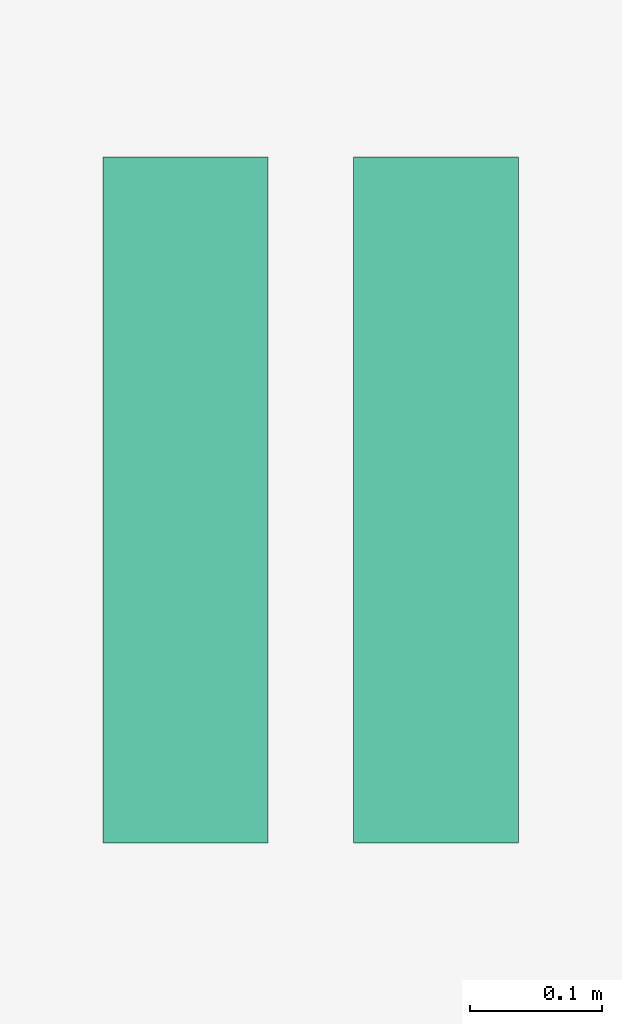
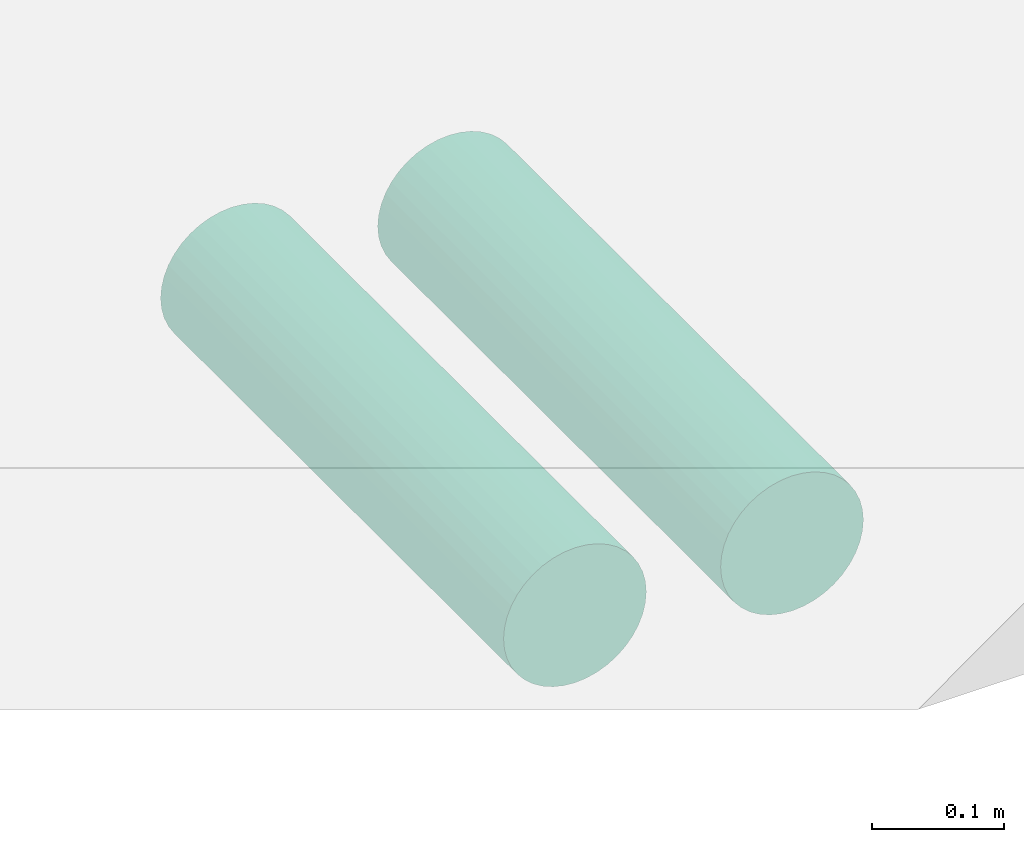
# One storey, part 3 of 3: 2 duct segments.
"""IFC4 building model written with IfcOpenShell, lengths in millimetres."""

from ifc_helpers import new_model, entity, si_unit, converted_unit, derived_unit, direction, frame, origin, place, context, subcontext, project, spatial, indexed_curve, outline, extrude, type_object, element, save


model = new_model("IFC4")

# Units and contexts
model_context = context("Model", 3, precision=0.01, world=origin(), true_north=direction((6.12303176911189e-17, 1.0)))
body_context = subcontext(model_context, "Body", "Model", "MODEL_VIEW")
ifc_project = project(units=[si_unit("LENGTHUNIT", "METRE", prefix="MILLI"), si_unit("AREAUNIT", "SQUARE_METRE"), si_unit("VOLUMEUNIT", "CUBIC_METRE"), converted_unit("PLANEANGLEUNIT", "DEGREE", entity("IfcRatioMeasure", 0.0174532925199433), si_unit("PLANEANGLEUNIT", "RADIAN"), dimensions=[0, 0, 0, 0, 0, 0, 0]), si_unit("MASSUNIT", "GRAM", prefix="KILO"), derived_unit("MASSDENSITYUNIT", [(si_unit("MASSUNIT", "GRAM", prefix="KILO"), 1), (si_unit("LENGTHUNIT", "METRE"), -3)]), si_unit("TIMEUNIT", "SECOND"), si_unit("FREQUENCYUNIT", "HERTZ"), si_unit("THERMODYNAMICTEMPERATUREUNIT", "DEGREE_CELSIUS"), derived_unit("THERMALTRANSMITTANCEUNIT", [(si_unit("MASSUNIT", "GRAM", prefix="KILO"), 1), (si_unit("THERMODYNAMICTEMPERATUREUNIT", "KELVIN"), -1), (si_unit("TIMEUNIT", "SECOND"), -3)]), derived_unit("VOLUMETRICFLOWRATEUNIT", [(si_unit("LENGTHUNIT", "METRE"), 3), (si_unit("TIMEUNIT", "SECOND"), -1)]), si_unit("ELECTRICCURRENTUNIT", "AMPERE"), si_unit("ELECTRICVOLTAGEUNIT", "VOLT"), si_unit("POWERUNIT", "WATT"), si_unit("FORCEUNIT", "NEWTON", prefix="KILO"), si_unit("ILLUMINANCEUNIT", "LUX"), si_unit("LUMINOUSFLUXUNIT", "LUMEN"), si_unit("LUMINOUSINTENSITYUNIT", "CANDELA"), derived_unit("USERDEFINED", [(si_unit("MASSUNIT", "GRAM", prefix="KILO"), -1), (si_unit("LENGTHUNIT", "METRE"), -2), (si_unit("TIMEUNIT", "SECOND"), 3), (si_unit("LUMINOUSFLUXUNIT", "LUMEN"), 1)]), derived_unit("LINEARVELOCITYUNIT", [(si_unit("LENGTHUNIT", "METRE"), 1), (si_unit("TIMEUNIT", "SECOND"), -1)]), si_unit("PRESSUREUNIT", "PASCAL"), derived_unit("USERDEFINED", [(si_unit("LENGTHUNIT", "METRE"), -2), (si_unit("MASSUNIT", "GRAM", prefix="KILO"), 1), (si_unit("TIMEUNIT", "SECOND"), -2)])], contexts=[model_context])

# Site, building, storey
site_placement = place(None, origin())
site = spatial("IfcSite", under=ifc_project, at=site_placement, Name="Default", CompositionType="ELEMENT")
building_placement = place(site_placement, origin())
building = spatial("IfcBuilding", under=site, at=building_placement, CompositionType="ELEMENT")
storey_placement = place(building_placement, frame((0.0, 0.0, 2313.90197154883)))
storey = spatial("IfcBuildingStorey", under=building, at=storey_placement, Name="Level 1y", CompositionType="ELEMENT", Elevation=2313.90197154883)

# Duct segments
duct_segment_type = type_object("IfcDuctSegmentType", Name="Round Duct:Taps", PredefinedType="NOTDEFINED")
duct_segment_1_placement = place(storey_placement, origin())
element("IfcDuctSegment", 1, at=duct_segment_1_placement, inside=storey, type_object=duct_segment_type, Name="Round Duct:Taps", ObjectType="Round Duct:Taps", PredefinedType="NOTDEFINED", context=body_context, shape_type="SweptSolid", body=[
    extrude(outline(indexed_curve([(62.500000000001, 0.0), (61.7305212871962, 9.77715406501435), (59.4410322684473, 19.3135621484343), (55.6879077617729, 28.3744062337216), (50.5635621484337, 36.7365782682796), (44.1941738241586, 44.1941738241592), (36.7365782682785, 50.5635621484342), (28.3744062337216, 55.6879077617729), (19.3135621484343, 59.4410322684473), (9.7771540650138, 61.7305212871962), (0.0, 62.4999999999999), (-9.7771540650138, 61.7305212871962), (-19.3135621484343, 59.4410322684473), (-28.3744062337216, 55.6879077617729), (-36.7365782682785, 50.5635621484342), (-44.1941738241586, 44.1941738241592), (-50.5635621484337, 36.7365782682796), (-55.6879077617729, 28.3744062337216), (-59.4410322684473, 19.3135621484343), (-61.7305212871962, 9.77715406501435), (-62.500000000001, 0.0), (-61.7305212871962, -9.77715406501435), (-59.4410322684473, -19.3135621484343), (-55.6879077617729, -28.3744062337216), (-50.5635621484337, -36.7365782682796), (-44.1941738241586, -44.1941738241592), (-36.7365782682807, -50.5635621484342), (-28.3744062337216, -55.6879077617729), (-19.3135621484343, -59.4410322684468), (-9.7771540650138, -61.7305212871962), (0.0, -62.4999999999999), (9.7771540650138, -61.7305212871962), (19.3135621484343, -59.4410322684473), (28.3744062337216, -55.6879077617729), (36.7365782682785, -50.5635621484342), (44.1941738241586, -44.1941738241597), (50.5635621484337, -36.7365782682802), (55.6879077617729, -28.3744062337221), (59.4410322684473, -19.3135621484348), (61.7305212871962, -9.77715406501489), (62.500000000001, 0.0)], self_intersect=False)), frame((-10880.5454560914, 1922.80553584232, 282.0), z_axis=(0.0, 1.0, 0.0), x_axis=(-1.0, 0.0, 0.0)), (0.0, 0.0, 1.0), 520.0),
])
duct_segment_2_placement = place(storey_placement, origin())
element("IfcDuctSegment", 2, at=duct_segment_2_placement, inside=storey, type_object=duct_segment_type, Name="Round Duct:Taps", ObjectType="Round Duct:Taps", PredefinedType="NOTDEFINED", context=body_context, shape_type="SweptSolid", body=[
    extrude(outline(indexed_curve([(62.500000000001, 0.0), (61.7305212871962, 9.77715406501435), (59.4410322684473, 19.3135621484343), (55.6879077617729, 28.3744062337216), (50.5635621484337, 36.7365782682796), (44.1941738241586, 44.1941738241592), (36.7365782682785, 50.5635621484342), (28.3744062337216, 55.6879077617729), (19.3135621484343, 59.4410322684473), (9.7771540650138, 61.7305212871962), (0.0, 62.4999999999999), (-9.7771540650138, 61.7305212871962), (-19.3135621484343, 59.4410322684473), (-28.3744062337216, 55.6879077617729), (-36.7365782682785, 50.5635621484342), (-44.1941738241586, 44.1941738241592), (-50.5635621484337, 36.7365782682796), (-55.6879077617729, 28.3744062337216), (-59.4410322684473, 19.3135621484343), (-61.7305212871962, 9.77715406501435), (-62.500000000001, 0.0), (-61.7305212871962, -9.77715406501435), (-59.4410322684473, -19.3135621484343), (-55.6879077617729, -28.3744062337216), (-50.5635621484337, -36.7365782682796), (-44.1941738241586, -44.1941738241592), (-36.7365782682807, -50.5635621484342), (-28.3744062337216, -55.6879077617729), (-19.3135621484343, -59.4410322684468), (-9.7771540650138, -61.7305212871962), (0.0, -62.4999999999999), (9.7771540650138, -61.7305212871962), (19.3135621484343, -59.4410322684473), (28.3744062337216, -55.6879077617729), (36.7365782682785, -50.5635621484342), (44.1941738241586, -44.1941738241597), (50.5635621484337, -36.7365782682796), (55.6879077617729, -28.3744062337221), (59.4410322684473, -19.3135621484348), (61.7305212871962, -9.77715406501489), (62.500000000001, 0.0)], self_intersect=False)), frame((-10690.5454560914, 1922.80553584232, 282.0), z_axis=(0.0, 1.0, 0.0), x_axis=(-1.0, 0.0, 0.0)), (0.0, 0.0, 1.0), 520.000000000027),
])

save(model, "model.ifc")
